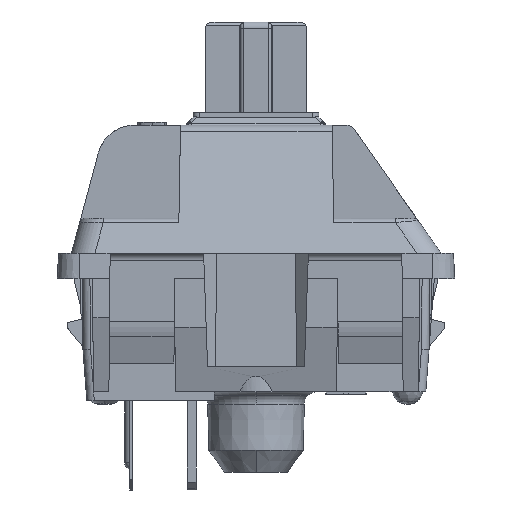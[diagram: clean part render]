
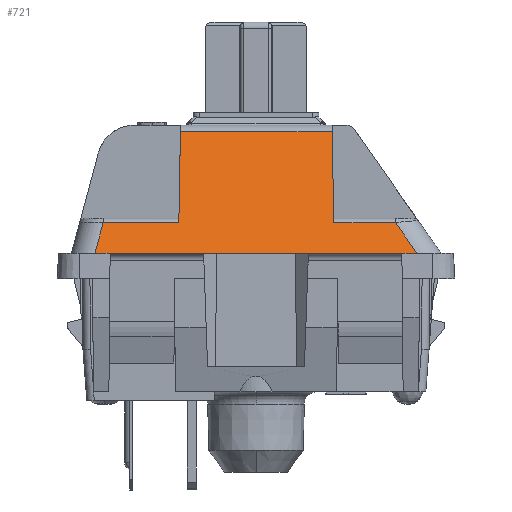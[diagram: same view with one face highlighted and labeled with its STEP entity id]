
A CAD part, left-side view. The second image highlights one B-rep face of the part: STEP entity #721.
In plain terms, the highlighted planar face has unit normal (-0.927, 0, 0.375).
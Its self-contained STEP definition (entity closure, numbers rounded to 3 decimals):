
#721=ADVANCED_FACE('',(#1710),#1316,.F.);
#1316=PLANE('',#11550);
#1710=FACE_OUTER_BOUND('',#2309,.T.);
#2309=EDGE_LOOP('',(#3455,#3456,#3457,#3458,#3459,#3460,#3461,#3462,#3463,
#3464));
#3455=ORIENTED_EDGE('',*,*,#7789,.T.);
#3456=ORIENTED_EDGE('',*,*,#7798,.T.);
#3457=ORIENTED_EDGE('',*,*,#7783,.F.);
#3458=ORIENTED_EDGE('',*,*,#7799,.F.);
#3459=ORIENTED_EDGE('',*,*,#7800,.T.);
#3460=ORIENTED_EDGE('',*,*,#7801,.F.);
#3461=ORIENTED_EDGE('',*,*,#7699,.F.);
#3462=ORIENTED_EDGE('',*,*,#7802,.F.);
#3463=ORIENTED_EDGE('',*,*,#7803,.T.);
#3464=ORIENTED_EDGE('',*,*,#7804,.F.);
#6615=VERTEX_POINT('',#15680);
#6616=VERTEX_POINT('',#15682);
#6681=VERTEX_POINT('',#15945);
#6682=VERTEX_POINT('',#15947);
#6683=VERTEX_POINT('',#15951);
#6686=VERTEX_POINT('',#15957);
#6692=VERTEX_POINT('',#15978);
#6693=VERTEX_POINT('',#15980);
#6694=VERTEX_POINT('',#15983);
#6695=VERTEX_POINT('',#15985);
#7699=EDGE_CURVE('',#6615,#6616,#9287,.T.);
#7783=EDGE_CURVE('',#6681,#6682,#9346,.T.);
#7789=EDGE_CURVE('',#6683,#6686,#9349,.T.);
#7798=EDGE_CURVE('',#6686,#6682,#9355,.T.);
#7799=EDGE_CURVE('',#6692,#6681,#9356,.T.);
#7800=EDGE_CURVE('',#6692,#6693,#9357,.T.);
#7801=EDGE_CURVE('',#6616,#6693,#9358,.T.);
#7802=EDGE_CURVE('',#6694,#6615,#9359,.T.);
#7803=EDGE_CURVE('',#6694,#6695,#9360,.T.);
#7804=EDGE_CURVE('',#6683,#6695,#9361,.T.);
#9287=LINE('',#15681,#10421);
#9346=LINE('',#15946,#10480);
#9349=LINE('',#15958,#10483);
#9355=LINE('',#15976,#10489);
#9356=LINE('',#15977,#10490);
#9357=LINE('',#15979,#10491);
#9358=LINE('',#15981,#10492);
#9359=LINE('',#15982,#10493);
#9360=LINE('',#15984,#10494);
#9361=LINE('',#15986,#10495);
#10421=VECTOR('',#12548,1.);
#10480=VECTOR('',#12679,1.);
#10483=VECTOR('',#12690,1.);
#10489=VECTOR('',#12710,1.);
#10490=VECTOR('',#12711,1.);
#10491=VECTOR('',#12712,1.);
#10492=VECTOR('',#12713,1.);
#10493=VECTOR('',#12714,1.);
#10494=VECTOR('',#12715,1.);
#10495=VECTOR('',#12716,1.);
#11550=AXIS2_PLACEMENT_3D('',#15987,#12717,#12718);
#12548=DIRECTION('',(0.,1.,0.));
#12679=DIRECTION('',(0.375,-0.016,0.927));
#12690=DIRECTION('',(0.375,0.016,0.927));
#12710=DIRECTION('',(0.,1.,0.));
#12711=DIRECTION('',(0.,-1.,0.));
#12712=DIRECTION('',(-0.364,0.241,-0.9));
#12713=DIRECTION('',(0.,1.,0.));
#12714=DIRECTION('',(0.,1.,0.));
#12715=DIRECTION('',(0.314,0.545,0.778));
#12716=DIRECTION('',(0.,-1.,0.));
#12717=DIRECTION('',(0.927,0.,-0.375));
#12718=DIRECTION('',(0.375,0.,0.927));
#15680=CARTESIAN_POINT('',(-7.35,-5.798,9.));
#15681=CARTESIAN_POINT('',(-7.35,-6.403,9.));
#15682=CARTESIAN_POINT('',(-7.35,5.798,9.));
#15945=CARTESIAN_POINT('',(-6.855,3.067,10.225));
#15946=CARTESIAN_POINT('',(-5.368,3.003,13.905));
#15947=CARTESIAN_POINT('',(-5.398,3.004,13.832));
#15951=CARTESIAN_POINT('',(-6.855,-3.09,10.225));
#15957=CARTESIAN_POINT('',(-5.398,-3.027,13.832));
#15958=CARTESIAN_POINT('',(-5.174,-3.018,14.385));
#15976=CARTESIAN_POINT('',(-5.398,3.088,13.832));
#15977=CARTESIAN_POINT('',(-6.855,13.603,10.225));
#15978=CARTESIAN_POINT('',(-6.855,6.075,10.225));
#15979=CARTESIAN_POINT('',(-7.981,6.822,7.438));
#15980=CARTESIAN_POINT('',(-7.35,6.403,9.));
#15981=CARTESIAN_POINT('',(-7.35,-6.403,9.));
#15982=CARTESIAN_POINT('',(-7.35,-6.403,9.));
#15983=CARTESIAN_POINT('',(-7.35,-6.403,9.));
#15984=CARTESIAN_POINT('',(-3.927,-0.471,17.472));
#15985=CARTESIAN_POINT('',(-6.855,-5.546,10.225));
#15986=CARTESIAN_POINT('',(-6.855,13.603,10.225));
#15987=CARTESIAN_POINT('',(-7.35,13.603,9.));
